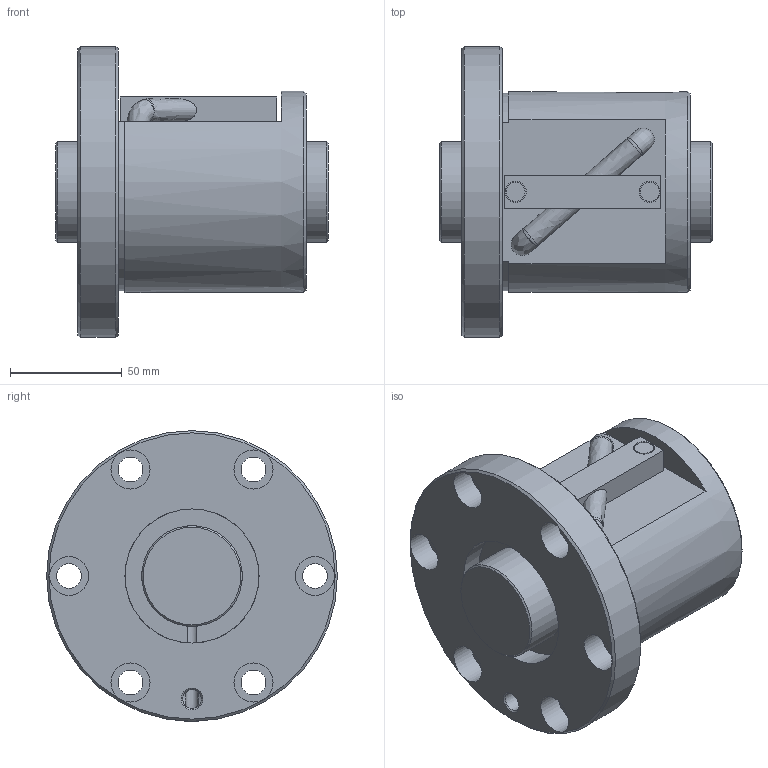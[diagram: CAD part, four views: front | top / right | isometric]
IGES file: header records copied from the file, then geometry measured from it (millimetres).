
Start section: Data from Parasolid IGES Translator 26.0.171, Copyright(c) 2006 Siemens PLM Software. All Rights Reserved.
Global section: file name: BNF4520V-2.5RRG1+122LC0_000_rev.igs; native system: By Siemens PLM Incorporated; preprocessor: XPlus GENERIC/IGES 26.0.171; author: Noname; organization: Noname; date: 20240806.090441; units: millimetre
Bounding box: 122 x 130 x 130 mm (x, y, z)
Surface area: 99064.1 mm2 (no closed solid volume)
Topology: 0 solids, 0 shells, 71 faces, 328 edges, 288 vertices
Faces by surface type: revolution 42, extrusion 29
